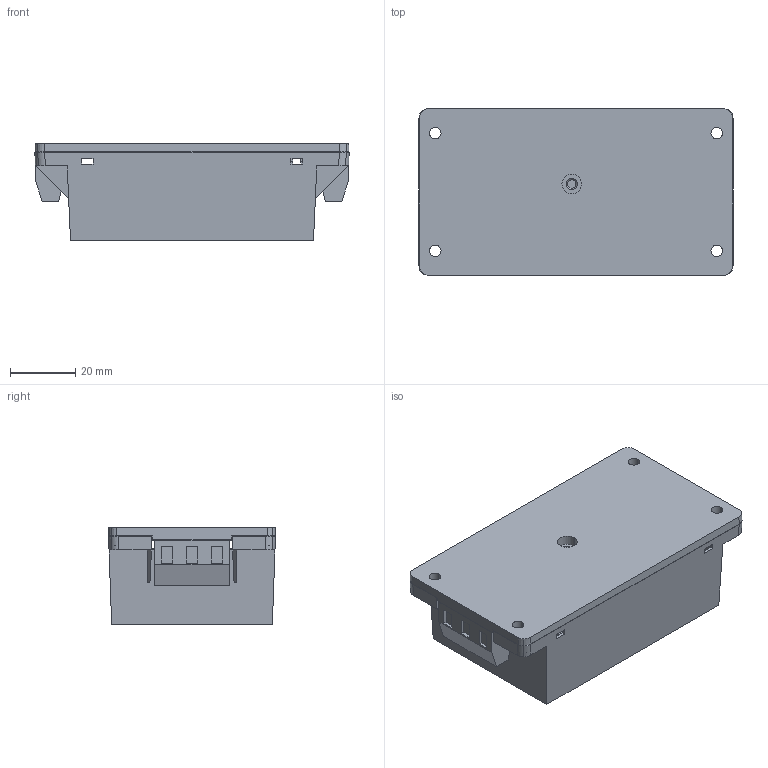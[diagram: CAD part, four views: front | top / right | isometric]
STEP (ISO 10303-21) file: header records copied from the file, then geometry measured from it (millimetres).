
FILE_DESCRIPTION((''),'2;1');
FILE_NAME('C:\Users\yaginuma\Documents\TRACO　STEPデータ送付関係\TMS25C\TMS25C_stp\TMS25C.stp','2012-07-13T15:18:25',('yaginuma'),(''),'Autodesk Inventor 9','Autodesk Inventor 9','');
FILE_SCHEMA(('AUTOMOTIVE_DESIGN { 1 0 10303 214 1 1 1 1 }'));
Length unit declared in the file: millimetre
Products named in the file (6): TMS25C_Assembly; TMS25C_上ケース; サブ基板１; サブ基板２; フェニックス端子台; TMS25C_下ケース
Assembly tree (6 placements, depth 2):
  TMS25C_Assembly
    TMS25C_上ケース
    サブ基板１
    サブ基板２
    フェニックス端子台  x2
    TMS25C_下ケース
Bounding box: 96 x 51 x 29.5 mm (x, y, z)
Volume: 38340.9 mm3; surface area: 41033.7 mm2
Topology: 6 solids, 6 shells, 720 faces, 1995 edges, 1326 vertices
Faces by surface type: plane 381, cylinder 279, bspline 36, cone 24
Entity records: 23770 total; most frequent: CARTESIAN_POINT 5482, DIRECTION 3833, ORIENTED_EDGE 3810, EDGE_CURVE 1905, AXIS2_PLACEMENT_3D 1317, VERTEX_POINT 1266, VECTOR 1199, LINE 1199
